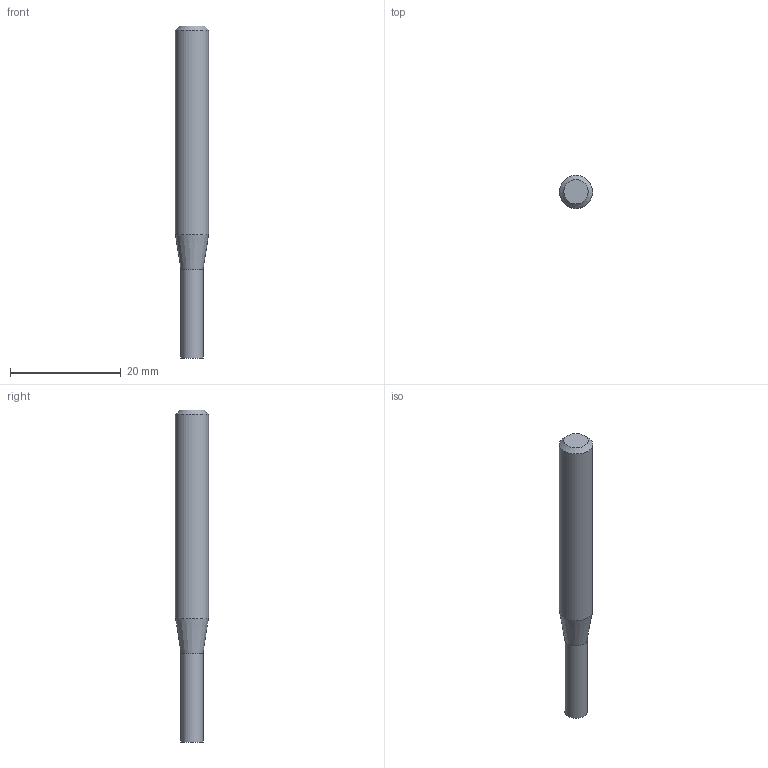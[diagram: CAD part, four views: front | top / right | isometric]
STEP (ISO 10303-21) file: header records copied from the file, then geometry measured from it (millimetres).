
FILE_DESCRIPTION((''),'2;1');
FILE_NAME('C:\Users\nsx150\AppData\Local\Temp\Mastercam 2021\W9Z147XDNF\TEMP.step','2021-04-08T14:48:31',(''),(''),'STEP Write','Mastercam 2021 ... CNC Software, Inc.','');
FILE_SCHEMA(('AUTOMOTIVE_DESIGN'));
Length unit declared in the file: millimetre
Products named in the file (1): None
Bounding box: 6 x 6 x 60 mm (x, y, z)
Volume: 1386.7 mm3; surface area: 1068.2 mm2
Topology: 2 solids, 2 shells, 8 faces, 10 edges, 6 vertices
Faces by surface type: plane 4, cylinder 2, cone 2
Full cylindrical faces by diameter (mm): 4 x1, 6 x1
Entity records: 190 total; most frequent: DIRECTION 32, CARTESIAN_POINT 22, AXIS2_PLACEMENT_3D 16, ORIENTED_EDGE 12, EDGE_LOOP 12, STYLED_ITEM 11, ADVANCED_FACE 8, VERTEX_POINT 6
